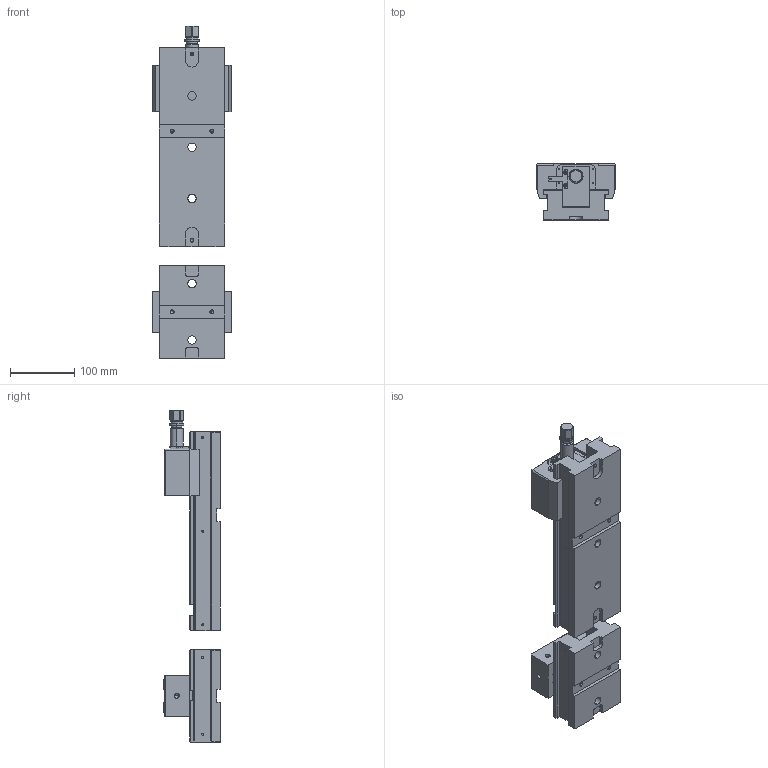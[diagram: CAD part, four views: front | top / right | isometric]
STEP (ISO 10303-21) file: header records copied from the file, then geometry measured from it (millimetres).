
FILE_DESCRIPTION((''),'2;1');
FILE_NAME('COMBI-125-A_ASM','2026-02-23T17:56:16',('Admin'),(''),'CREO PARAMETRIC BY PTC INC, 2025010','CREO PARAMETRIC BY PTC INC, 2025010','');
FILE_SCHEMA(('CONFIG_CONTROL_DESIGN'));
Length unit declared in the file: millimetre
Products named in the file (6): MAIN_FRAME_2; MAIN_FRAME; FIX_JAW; MOVABLE_JAW_125ASM; DIN912-M10X45-12_9; COMBI-125-A_ASM
Assembly tree (8 placements, depth 2):
  COMBI-125-A_ASM
    MAIN_FRAME_2
    MAIN_FRAME
    FIX_JAW
    MOVABLE_JAW_125ASM
    DIN912-M10X45-12_9  x4
Bounding box: 124 x 88.7 x 518.1 mm (x, y, z)
Volume: 2248709 mm3; surface area: 345534.9 mm2
Topology: 8 solids, 46 shells, 936 faces, 2415 edges, 1524 vertices
Faces by surface type: plane 445, cylinder 329, cone 134, bspline 20, torus 8
Entity records: 27228 total; most frequent: CARTESIAN_POINT 5645, DIRECTION 4585, ORIENTED_EDGE 4266, EDGE_CURVE 2191, AXIS2_PLACEMENT_3D 1651, VERTEX_POINT 1434, VECTOR 1283, LINE 1283
